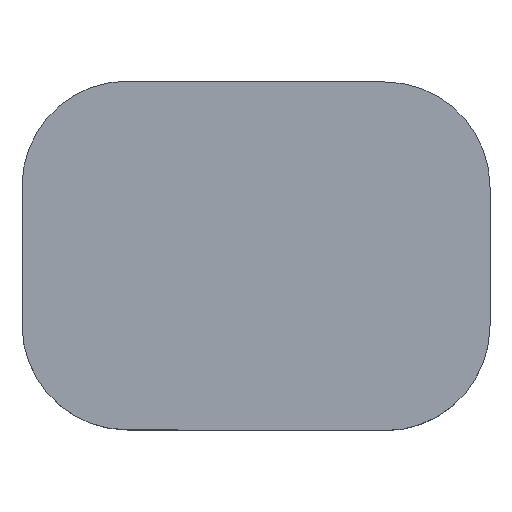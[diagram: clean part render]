
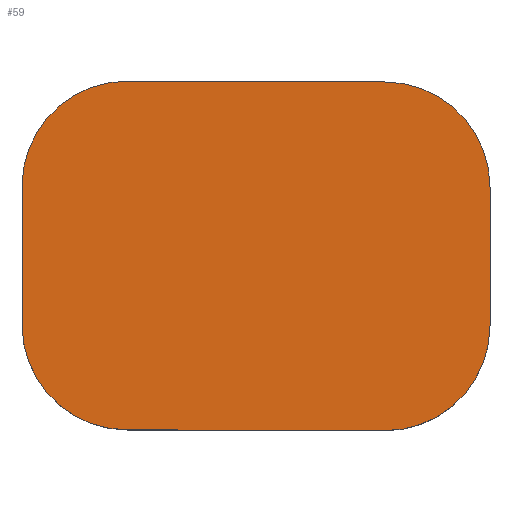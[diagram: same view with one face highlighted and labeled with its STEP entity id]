
A CAD part, top view. The second image highlights one B-rep face of the part: STEP entity #59.
In plain terms, the highlighted planar face has unit normal (0, 0, 1).
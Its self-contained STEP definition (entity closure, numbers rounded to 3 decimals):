
#59=ADVANCED_FACE('',(#69),#137,.T.);
#69=FACE_OUTER_BOUND('',#79,.F.);
#79=EDGE_LOOP('',(#96,#97,#98,#99,#100,#101,#102,#103));
#96=ORIENTED_EDGE('',*,*,#158,.T.);
#97=ORIENTED_EDGE('',*,*,#165,.F.);
#98=ORIENTED_EDGE('',*,*,#164,.T.);
#99=ORIENTED_EDGE('',*,*,#163,.F.);
#100=ORIENTED_EDGE('',*,*,#162,.T.);
#101=ORIENTED_EDGE('',*,*,#161,.F.);
#102=ORIENTED_EDGE('',*,*,#160,.T.);
#103=ORIENTED_EDGE('',*,*,#159,.F.);
#137=PLANE('',#233);
#146=CIRCLE('',#228,38.1);
#147=CIRCLE('',#229,38.1);
#148=CIRCLE('',#230,38.1);
#149=CIRCLE('',#231,38.1);
#158=EDGE_CURVE('',#213,#212,#178,.T.);
#159=EDGE_CURVE('',#213,#211,#146,.T.);
#160=EDGE_CURVE('',#210,#211,#179,.T.);
#161=EDGE_CURVE('',#210,#209,#147,.T.);
#162=EDGE_CURVE('',#208,#209,#180,.T.);
#163=EDGE_CURVE('',#208,#207,#148,.T.);
#164=EDGE_CURVE('',#206,#207,#181,.T.);
#165=EDGE_CURVE('',#206,#212,#149,.T.);
#178=LINE('',#324,#194);
#179=LINE('',#326,#195);
#180=LINE('',#328,#196);
#181=LINE('',#330,#197);
#194=VECTOR('',#257,50.061);
#195=VECTOR('',#260,93.27);
#196=VECTOR('',#263,50.061);
#197=VECTOR('',#266,93.27);
#206=VERTEX_POINT('',#300);
#207=VERTEX_POINT('',#301);
#208=VERTEX_POINT('',#302);
#209=VERTEX_POINT('',#303);
#210=VERTEX_POINT('',#304);
#211=VERTEX_POINT('',#305);
#212=VERTEX_POINT('',#306);
#213=VERTEX_POINT('',#307);
#228=AXIS2_PLACEMENT_3D('',#325,#258,#259);
#229=AXIS2_PLACEMENT_3D('',#327,#261,#262);
#230=AXIS2_PLACEMENT_3D('',#329,#264,#265);
#231=AXIS2_PLACEMENT_3D('',#331,#267,#268);
#233=AXIS2_PLACEMENT_3D('',#341,#279,#280);
#257=DIRECTION('',(0.,1.,0.));
#258=DIRECTION('',(0.,0.,1.));
#259=DIRECTION('',(-1.,0.,0.));
#260=DIRECTION('',(-1.,0.003,0.));
#261=DIRECTION('',(0.,0.,1.));
#262=DIRECTION('',(0.,-1.,0.));
#263=DIRECTION('',(0.,-1.,0.));
#264=DIRECTION('',(0.,0.,1.));
#265=DIRECTION('',(1.,0.,0.));
#266=DIRECTION('',(1.,-0.003,0.));
#267=DIRECTION('',(0.,0.,1.));
#268=DIRECTION('',(0.,1.,0.));
#279=DIRECTION('',(0.,0.,1.));
#280=DIRECTION('',(-1.,0.,0.));
#300=CARTESIAN_POINT('',(1124.875,-66.892,-20.05));
#301=CARTESIAN_POINT('',(1218.144,-67.197,-20.05));
#302=CARTESIAN_POINT('',(1256.244,-105.297,-20.05));
#303=CARTESIAN_POINT('',(1256.244,-155.357,-20.05));
#304=CARTESIAN_POINT('',(1218.144,-193.457,-20.05));
#305=CARTESIAN_POINT('',(1124.875,-193.153,-20.05));
#306=CARTESIAN_POINT('',(1086.775,-104.992,-20.05));
#307=CARTESIAN_POINT('',(1086.775,-155.053,-20.05));
#324=CARTESIAN_POINT('',(1086.775,-155.053,-20.05));
#325=CARTESIAN_POINT('',(1124.875,-155.053,-20.05));
#326=CARTESIAN_POINT('',(1218.144,-193.457,-20.05));
#327=CARTESIAN_POINT('',(1218.144,-155.357,-20.05));
#328=CARTESIAN_POINT('',(1256.244,-105.297,-20.05));
#329=CARTESIAN_POINT('',(1218.144,-105.297,-20.05));
#330=CARTESIAN_POINT('',(1124.875,-66.892,-20.05));
#331=CARTESIAN_POINT('',(1124.875,-104.992,-20.05));
#341=CARTESIAN_POINT('',(1257.986,-65.151,-20.05));
